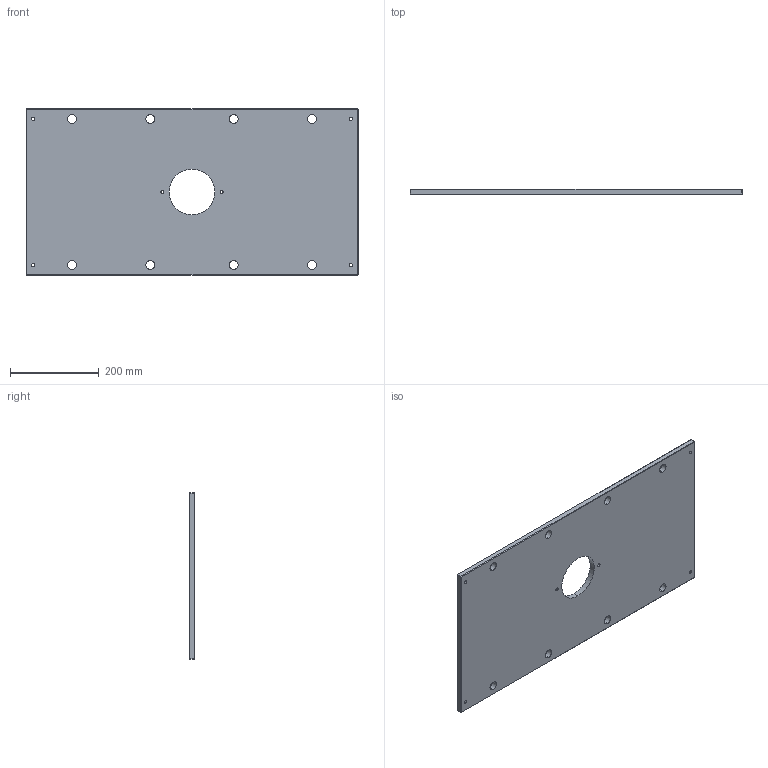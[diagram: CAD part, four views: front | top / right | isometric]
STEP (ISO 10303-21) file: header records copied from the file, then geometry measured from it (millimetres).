
FILE_DESCRIPTION (( 'STEP AP214' ), '1' );
FILE_NAME ('ME-0619-CH-1529.STEP', '2020-02-12T14:37:47', ( '' ), ( '' ), 'SwSTEP 2.0', 'SolidWorks 2018', '' );
FILE_SCHEMA (( 'AUTOMOTIVE_DESIGN' ));
Length unit declared in the file: inch
Products named in the file (1): ME-0619-CH-1529
Bounding box: 746.12 x 12.7 x 374.65 mm (x, y, z)
Volume: 3404810.4 mm3; surface area: 573983.6 mm2
Topology: 1 solids, 1 shells, 68 faces, 162 edges, 96 vertices
Faces by surface type: cylinder 30, plane 26, cone 12
Entity records: 2050 total; most frequent: DIRECTION 372, CARTESIAN_POINT 327, ORIENTED_EDGE 324, EDGE_CURVE 162, AXIS2_PLACEMENT_3D 141, EDGE_LOOP 98, VERTEX_POINT 96, VECTOR 90
